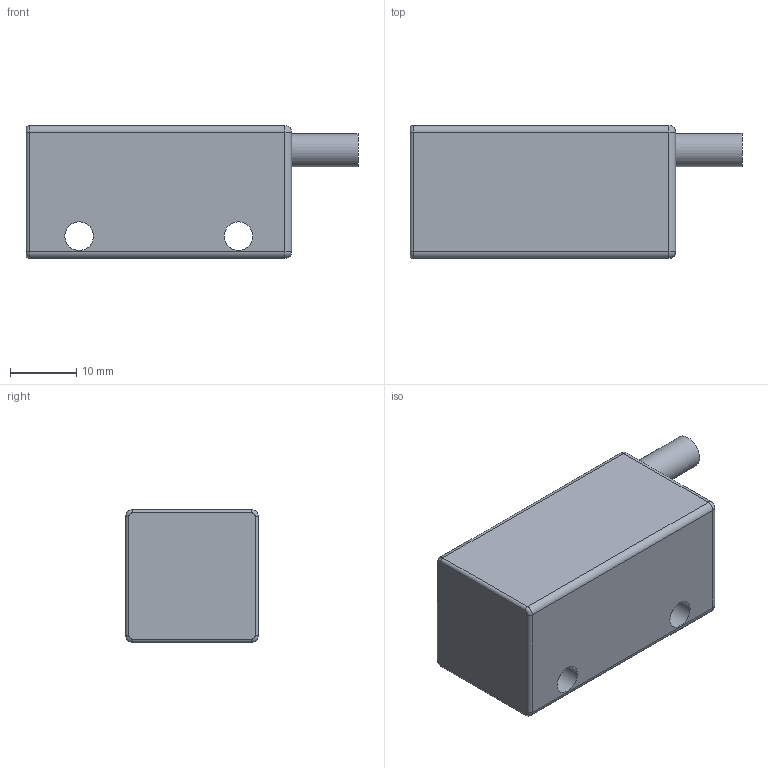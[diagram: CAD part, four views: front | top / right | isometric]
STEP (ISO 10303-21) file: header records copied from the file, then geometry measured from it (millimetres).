
FILE_DESCRIPTION(/* description */ (''),/* implementation_level */ '2;1');
FILE_NAME(/* name */ 'HNSC-C-LP20.step',/* time_stamp */ '2024-10-08T15:00:54+02:00',/* author */ (''),/* organization */ (''),/* preprocessor_version */ 'ST-DEVELOPER v20',/* originating_system */ 'Autodesk Translation Framework v13.20.0.188',/* authorisation */ '');
FILE_SCHEMA (('AUTOMOTIVE_DESIGN { 1 0 10303 214 3 1 1 }'));
Length unit declared in the file: millimetre
Products named in the file (2): Kombigehäuse z=20 und z=24; VergossenerSchalter
Assembly tree (1 placements, depth 2):
  Kombigehäuse z=20 und z=24
    VergossenerSchalter
Bounding box: 50 x 20 x 20 mm (x, y, z)
Volume: 15560.5 mm3; surface area: 4518 mm2
Topology: 1 solids, 1 shells, 30 faces, 61 edges, 34 vertices
Faces by surface type: cylinder 15, plane 7, bspline 4, sphere 4
Full cylindrical faces by diameter (mm): 4.3 x2, 5 x1
Entity records: 905 total; most frequent: CARTESIAN_POINT 160, DIRECTION 153, ORIENTED_EDGE 122, AXIS2_PLACEMENT_3D 63, EDGE_CURVE 61, EDGE_LOOP 35, CIRCLE 34, VERTEX_POINT 34
